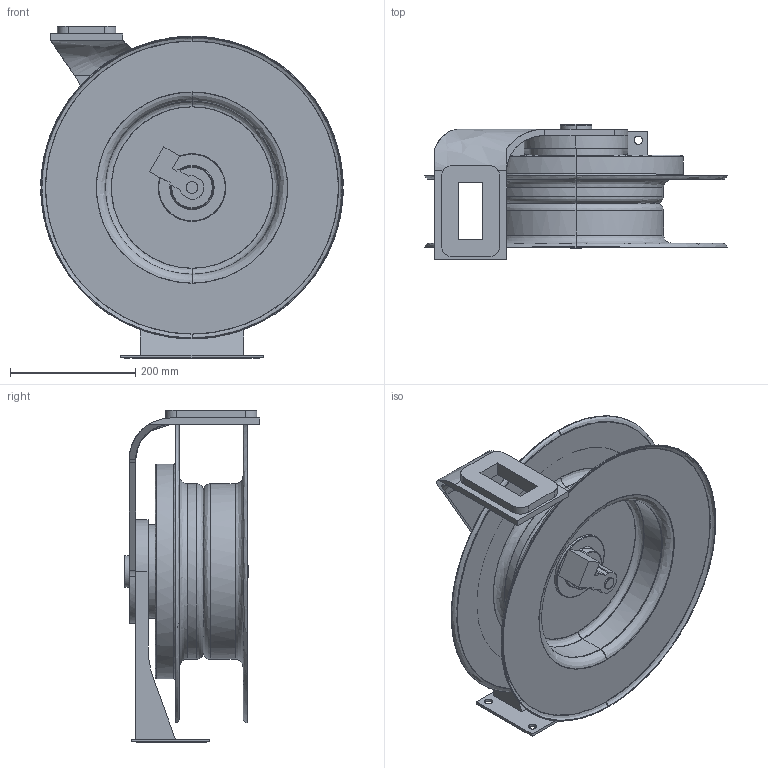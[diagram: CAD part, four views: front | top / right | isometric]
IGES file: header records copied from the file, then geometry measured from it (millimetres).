
Start section: Comment
Global section: file name: 70000 Hose Reel 3-D .igs; native system:  By UGS Corp.; preprocessor: XPlus GENERIC/IGES 3.0; author: Author; organization: Title; date: 20160722.103236; units: millimetre
Bounding box: 481.89 x 216.48 x 529.34 mm (x, y, z)
Surface area: 1093630.5 mm2 (no closed solid volume)
Topology: 0 solids, 0 shells, 161 faces, 760 edges, 760 vertices
Faces by surface type: bspline 161
